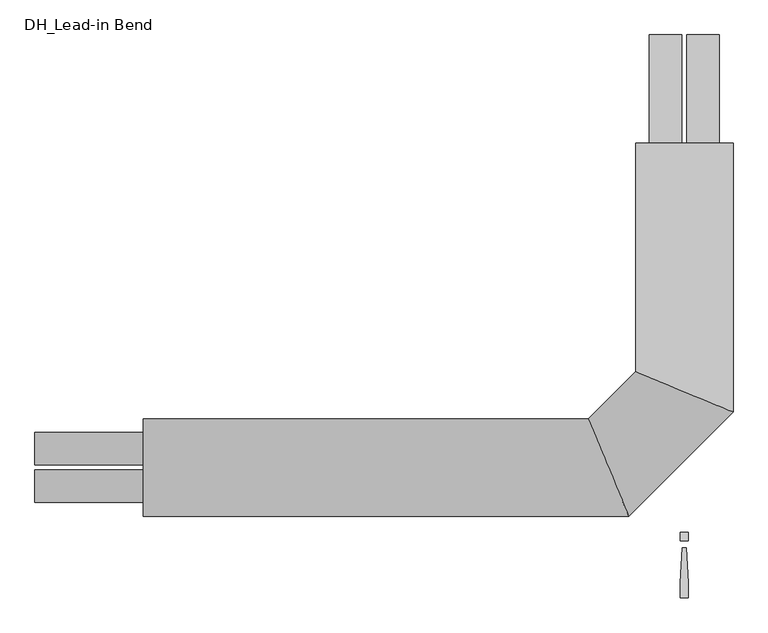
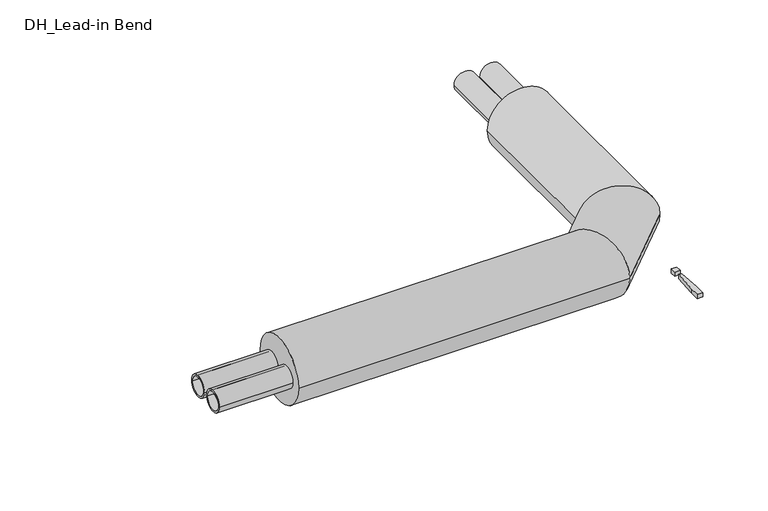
"""IFC4 building model written with IfcOpenShell, lengths in millimetres: pipe fitting geometry, DH_Lead-in Bend : INSULPEX DUO + 11 Heating Vertical."""

from ifc_helpers import new_model, si_unit, point, frame, frame_2d, origin, origin_with_axes, place, context, project, spatial, polyline, circle_curve, ellipse_curve, trimmed, segment, composite_curve, outline, extrude, source, transform, mapped, element, save
from ifc_brep_helpers import plane_surface, cylinder_surface, advanced_brep


def dh_lead_in_bend_c3c84462(model_context):
    return source(origin(), model_context, "Body", "SolidModel", [
        extrude(outline(composite_curve([segment(trimmed(circle_curve(frame_2d((-43.5, 0.0)), 37.5), [point((-6.0, 0.0))], [point((-81.0, 0.0))], False, "CARTESIAN"), True, "CONTINUOUS"), segment(trimmed(circle_curve(frame_2d((-43.5, 0.0)), 37.5), [point((-81.0, 0.0))], [point((-6.0, 0.0))], False, "CARTESIAN"), True, "CONTINUOUS")], self_intersect=False), holes=[composite_curve([segment(trimmed(circle_curve(frame_2d((-43.5, 0.0)), 30.7), [point((-12.8, 0.0))], [point((-74.2, 0.0))], True, "CARTESIAN"), True, "CONTINUOUS"), segment(trimmed(circle_curve(frame_2d((-43.5, 0.0)), 30.7), [point((-74.2, 0.0))], [point((-12.8, 0.0))], True, "CARTESIAN"), True, "CONTINUOUS")], self_intersect=False)]), frame((-1500.0, 0.0, 0.0), z_axis=(1.0, 0.0, 0.0), x_axis=(0.0, 1.0, 0.0)), (0.0, 0.0, 1.0), 250.0),
        advanced_brep(
        [(-1250.0, -112.5, 0.0), (-1250.0, 112.5, 0.0), (-128.4009742, -112.5, 0.0), (-221.5990258, 112.5, 0.0), (112.5, 750.0, 0.0), (-112.5, 750.0, 0.0), (-112.5, 221.5990258, 0.0), (112.5, 128.4009742, 0.0)],
        [
            (0, 1, circle_curve(frame((-1250.0, 0.0, 0.0), z_axis=(-1.0, 0.0, 0.0), x_axis=(0.0, 1.0, 0.0)), 112.5)),
            (1, 0, circle_curve(frame((-1250.0, 0.0, 0.0), z_axis=(-1.0, 0.0, 0.0), x_axis=(0.0, 1.0, 0.0)), 112.5)),
            (0, 2),
            (2, 3, ellipse_curve(frame((-175.0, 0.0, 0.0), z_axis=(-0.9238795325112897, -0.3826834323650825, 0.0), x_axis=(-0.38268343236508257, 0.9238795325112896, 0.0)), 121.7691225, 112.5)),
            (3, 1),
            (3, 2, ellipse_curve(frame((-175.0, 0.0, 0.0), z_axis=(-0.9238795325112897, -0.3826834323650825, 0.0), x_axis=(-0.38268343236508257, 0.9238795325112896, 0.0)), 121.7691225, 112.5)),
            (4, 5, circle_curve(frame((0.0, 750.0, 0.0), z_axis=(0.0, 1.0, 0.0), x_axis=(-1.0, 0.0, 0.0)), 112.5)),
            (5, 4, circle_curve(frame((0.0, 750.0, 0.0), z_axis=(0.0, 1.0, 0.0), x_axis=(-1.0, 0.0, 0.0)), 112.5)),
            (6, 7, ellipse_curve(frame((0.0, 175.0, 0.0), z_axis=(0.3826834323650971, 0.9238795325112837, 0.0), x_axis=(0.9238795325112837, -0.382683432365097, 0.0)), 121.7691225, 112.5)),
            (7, 4),
            (5, 6),
            (7, 6, ellipse_curve(frame((0.0, 175.0, 0.0), z_axis=(0.3826834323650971, 0.9238795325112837, 0.0), x_axis=(0.9238795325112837, -0.382683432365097, 0.0)), 121.7691225, 112.5)),
            (2, 7),
            (6, 3),
        ],
        [
            plane_surface(frame((-1250.0, 0.0, 0.0), z_axis=(-1.0, 0.0, 0.0), x_axis=(0.0, 0.0, 1.0))),
            cylinder_surface(frame((-1250.0, 0.0, 0.0), z_axis=(-1.0, 0.0, 0.0), x_axis=(0.0, 1.0, 0.0)), 112.5),
            plane_surface(frame((0.0, 750.0, 0.0), z_axis=(0.0, 1.0, 0.0), x_axis=(0.0, 0.0, 1.0))),
            cylinder_surface(frame((0.0, 175.0, 0.0), z_axis=(0.0, -1.0, 0.0), x_axis=(-1.0, 0.0, 0.0)), 112.5),
            cylinder_surface(frame((-175.0, 0.0, 0.0), z_axis=(-0.7071067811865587, -0.7071067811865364, 0.0), x_axis=(-0.7071067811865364, 0.7071067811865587, 0.0)), 112.5),
        ],
        [
            (0, [[1, 2]]),
            (1, [[-1, 3, 4, 5]]),
            (1, [[-2, -5, 6, -3]]),
            (2, [[7, 8]]),
            (3, [[9, 10, -8, 11]]),
            (3, [[12, -11, -7, -10]]),
            (4, [[-4, 13, -9, 14]]),
            (4, [[-6, -14, -12, -13]]),
        ],
    ),
        extrude(outline(composite_curve([segment(trimmed(circle_curve(frame_2d((0.0, -43.5)), 37.5), [point((0.0, -6.0))], [point((0.0, -81.0))], False, "CARTESIAN"), True, "CONTINUOUS"), segment(trimmed(circle_curve(frame_2d((0.0, -43.5)), 37.5), [point((0.0, -81.0))], [point((0.0, -6.0))], False, "CARTESIAN"), True, "CONTINUOUS")], self_intersect=False), holes=[composite_curve([segment(trimmed(circle_curve(frame_2d((0.0, -43.5)), 30.7), [point((0.0, -12.8))], [point((0.0, -74.2))], True, "CARTESIAN"), True, "CONTINUOUS"), segment(trimmed(circle_curve(frame_2d((0.0, -43.5)), 30.7), [point((0.0, -74.2))], [point((0.0, -12.8))], True, "CARTESIAN"), True, "CONTINUOUS")], self_intersect=False)]), frame((0.0, 750.0, 0.0), z_axis=(0.0, 1.0, 0.0), x_axis=(0.0, 0.0, 1.0)), (0.0, 0.0, 1.0), 250.0),
        extrude(outline(composite_curve([segment(trimmed(circle_curve(frame_2d((43.5, 0.0)), 37.5), [point((6.0, 0.0))], [point((81.0, 0.0))], False, "CARTESIAN"), True, "CONTINUOUS"), segment(trimmed(circle_curve(frame_2d((43.5, 0.0)), 37.5), [point((81.0, 0.0))], [point((6.0, 0.0))], False, "CARTESIAN"), True, "CONTINUOUS")], self_intersect=False), holes=[composite_curve([segment(trimmed(circle_curve(frame_2d((43.5, 0.0)), 30.7), [point((12.8, 0.0))], [point((74.2, 0.0))], True, "CARTESIAN"), True, "CONTINUOUS"), segment(trimmed(circle_curve(frame_2d((43.5, 0.0)), 30.7), [point((74.2, 0.0))], [point((12.8, 0.0))], True, "CARTESIAN"), True, "CONTINUOUS")], self_intersect=False)]), frame((-1500.0, 0.0, 0.0), z_axis=(1.0, 0.0, 0.0), x_axis=(0.0, 1.0, 0.0)), (0.0, 0.0, 1.0), 250.0),
        extrude(outline(composite_curve([segment(trimmed(circle_curve(frame_2d((0.0, 43.5)), 37.5), [point((0.0, 6.0))], [point((0.0, 81.0))], False, "CARTESIAN"), True, "CONTINUOUS"), segment(trimmed(circle_curve(frame_2d((0.0, 43.5)), 37.5), [point((0.0, 81.0))], [point((0.0, 6.0))], False, "CARTESIAN"), True, "CONTINUOUS")], self_intersect=False), holes=[composite_curve([segment(trimmed(circle_curve(frame_2d((0.0, 43.5)), 30.7), [point((0.0, 12.8))], [point((0.0, 74.2))], True, "CARTESIAN"), True, "CONTINUOUS"), segment(trimmed(circle_curve(frame_2d((0.0, 43.5)), 30.7), [point((0.0, 74.2))], [point((0.0, 12.8))], True, "CARTESIAN"), True, "CONTINUOUS")], self_intersect=False)]), frame((0.0, 750.0, 0.0), z_axis=(0.0, 1.0, 0.0), x_axis=(0.0, 0.0, 1.0)), (0.0, 0.0, 1.0), 250.0),
        extrude(outline(polyline([(4.7088895, -185.3166715), (9.4177791, -266.6553807), (9.4177791, -300.6844652), (-9.4177791, -300.6844652), (-9.4177791, -266.6553807), (-4.7088895, -185.3166715), (4.7088895, -185.3166715)])), origin_with_axes(), (0.0, 0.0, 1.0), 15.0),
        extrude(outline(polyline([(9.4177791, -150.0), (9.4177791, -168.8355582), (-9.4177791, -168.8355582), (-9.4177791, -150.0), (9.4177791, -150.0)])), origin_with_axes(), (0.0, 0.0, 1.0), 15.0),
    ])


if __name__ == "__main__":
    model = new_model("IFC4")
    model_context = context("Model", 3, world=origin())
    ifc_project = project(units=[si_unit("LENGTHUNIT", "METRE", prefix="MILLI")], contexts=[model_context])
    site = spatial("IfcSite", under=ifc_project)
    building = spatial("IfcBuilding", under=site)
    placement = place(None, origin())
    dh_lead_in_bend_shape = dh_lead_in_bend_c3c84462(model_context)
    element("IfcPipeFitting", 1, ObjectType="DH_Lead-in Bend : INSULPEX DUO + 11 Heating Vertical", at=placement, inside=building, context=model_context, shape_type="MappedRepresentation", body=[
        mapped(dh_lead_in_bend_shape, transform((0.0, 0.0, 0.0), x_axis=(1.0, 0.0, 0.0), y_axis=(0.0, 1.0, 0.0), z_axis=(0.0, 0.0, 1.0))),
    ])
    save(model, "model.ifc")
